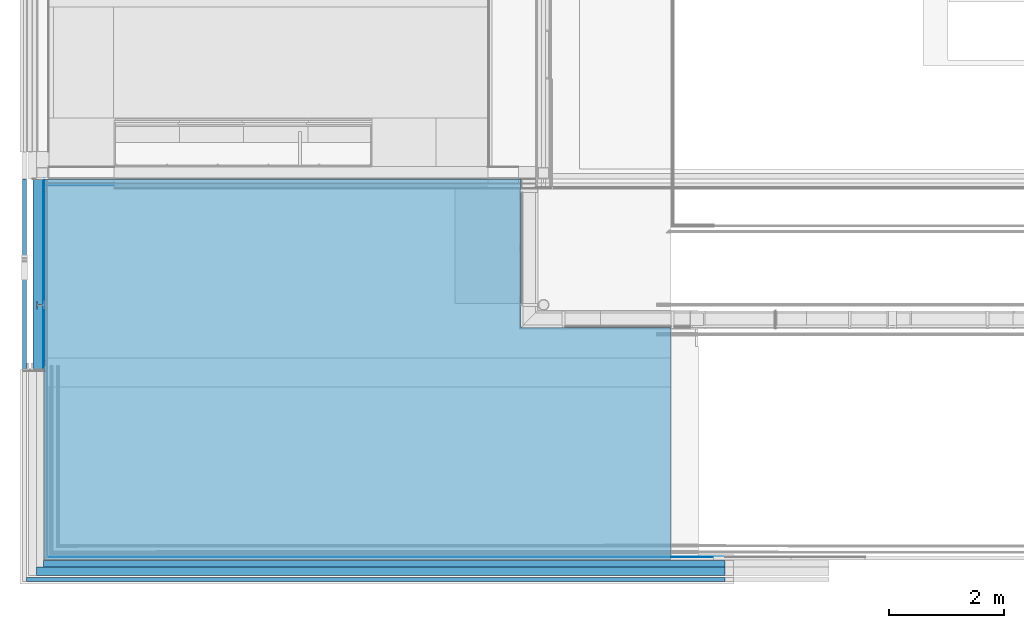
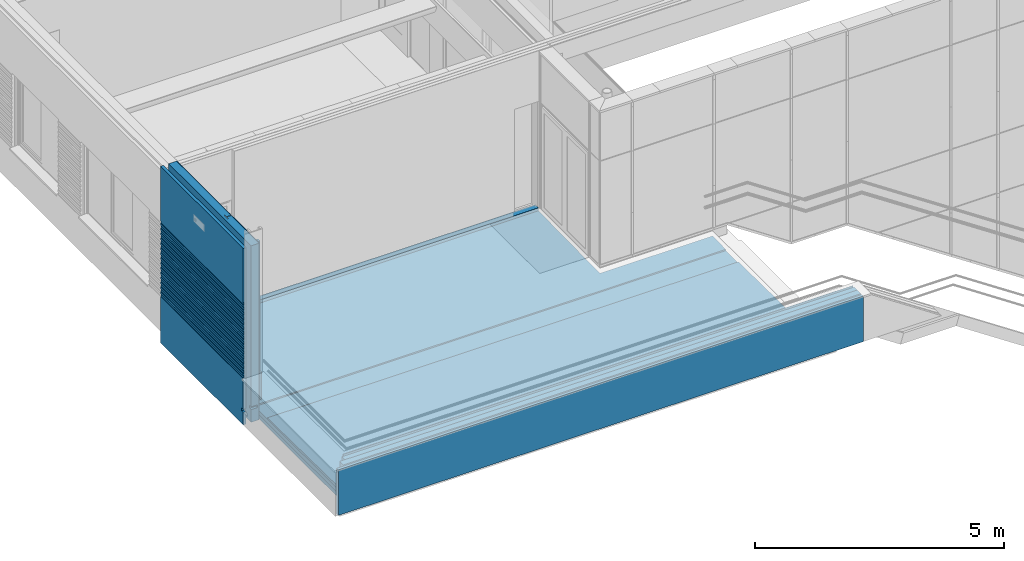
# One storey, part 53 of 137: 12 building element parts, 3 elements without a shape of their own.
"""IFC2X3 building model written with IfcOpenShell, lengths in millimetres."""

from ifc_helpers import new_model, entity, si_unit, converted_unit, derived_unit, money_unit, direction, frame, origin_with_axes, place, context, subcontext, project, spatial, faceted_brep, material, type_object, element, aggregate, save


model = new_model("IFC2X3")

# Units and contexts
model_context = context("Model", 3, precision=0.01, world=origin_with_axes(), true_north=direction((0.0, 1.0)))
body_context = subcontext(model_context, "Body", "Model", "MODEL_VIEW")
ifc_project = project(units=[si_unit("LENGTHUNIT", "METRE", prefix="MILLI"), si_unit("AREAUNIT", "SQUARE_METRE"), si_unit("VOLUMEUNIT", "CUBIC_METRE"), converted_unit("PLANEANGLEUNIT", "DEGREE", entity("IfcPlaneAngleMeasure", 0.0174532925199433), si_unit("PLANEANGLEUNIT", "RADIAN"), dimensions=[0, 0, 0, 0, 0, 0, 0]), money_unit("EUR"), converted_unit("TIMEUNIT", "Year", entity("IfcTimeMeasure", 31556926.0), si_unit("TIMEUNIT", "SECOND"), dimensions=[0, 0, 1, 0, 0, 0, 0]), si_unit("MASSUNIT", "GRAM", prefix="KILO"), si_unit("THERMODYNAMICTEMPERATUREUNIT", "DEGREE_CELSIUS"), si_unit("LUMINOUSINTENSITYUNIT", "LUMEN"), si_unit("ENERGYUNIT", "JOULE", prefix="MEGA"), derived_unit("THERMALCONDUCTANCEUNIT", [(si_unit("POWERUNIT", "WATT"), 1), (si_unit("LENGTHUNIT", "METRE"), -1), (si_unit("THERMODYNAMICTEMPERATUREUNIT", "KELVIN"), -1)]), derived_unit("SPECIFICHEATCAPACITYUNIT", [(si_unit("ENERGYUNIT", "JOULE"), 1), (si_unit("MASSUNIT", "GRAM", prefix="KILO"), -1), (si_unit("THERMODYNAMICTEMPERATUREUNIT", "KELVIN"), -1)]), derived_unit("MASSDENSITYUNIT", [(si_unit("MASSUNIT", "GRAM", prefix="KILO"), 1), (si_unit("VOLUMEUNIT", "CUBIC_METRE"), -1)])], contexts=[model_context])

# Site, building, storey
site_placement = place(None, origin_with_axes())
site = spatial("IfcSite", under=ifc_project, at=site_placement, Name="Site", CompositionType="ELEMENT")
building_placement = place(site_placement, origin_with_axes())
building = spatial("IfcBuilding", under=site, at=building_placement, Name="Naam gebouw", CompositionType="ELEMENT")
storey_placement = place(building_placement, frame((0.0, 0.0, 3960.0), z_axis=(0.0, 0.0, 1.0), x_axis=(1.0, 0.0, 0.0)))
storey = spatial("IfcBuildingStorey", under=building, at=storey_placement, Name="1e verdieping", CompositionType="ELEMENT", Elevation=3960.0)

# Wall, building element parts
wall_type_1 = type_object("IfcWallType", Name="21 Buitenwand spouwmuur overstek 434", PredefinedType="NOTDEFINED")
wall_1_placement = place(storey_placement, frame((0.0, 3453.999976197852, -390.0000000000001), z_axis=(0.0, 0.0, 1.0), x_axis=(0.0, 1.0, 0.0)))
wall_1 = element("IfcWall", 1, at=wall_1_placement, inside=storey, type_object=wall_type_1, Name="21_Wand-x")
ifc_material_1 = material(Name="Steen - Baksteen")
building_element_part_1_placement = place(wall_1_placement, origin_with_axes())
building_element_part_1 = element("IfcBuildingElementPart", 2, at=building_element_part_1_placement, material=ifc_material_1, Name="Steen - Baksteen", context=body_context, shape_type="Brep", body=[
    faceted_brep([(3326.000023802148, 250.0000119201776, 2940.000001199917), (3326.000023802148, 235.0000119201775, 2940.000001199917), (3326.000023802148, 235.0000119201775, 3000.0), (3326.000023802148, 249.9999999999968, 3000.0), (3326.000023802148, 249.9999999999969, 4338.000000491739), (3326.000023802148, 179.9999999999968, 4338.000000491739), (3326.000023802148, 179.9999999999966, 0.0), (3326.000023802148, 249.9999999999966, 0.0), (3326.000023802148, 249.9999999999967, 1140.000037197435), (3326.000023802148, 235.0000119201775, 1140.000037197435), (3326.000023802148, 235.0000119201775, 1210.000035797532), (3326.000023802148, 250.0000119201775, 1210.000035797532), (3326.000023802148, 250.0000119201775, 1260.000007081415), (3326.000023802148, 235.0000119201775, 1260.000007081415), (3326.000023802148, 235.0000119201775, 1330.000005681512), (3326.000023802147, 250.0000119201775, 1330.000005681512), (3326.000023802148, 250.0000119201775, 1380.000060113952), (3326.000023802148, 235.0000119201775, 1380.000060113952), (3326.000023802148, 235.0000119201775, 1450.000030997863), (3326.000023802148, 250.0000119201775, 1450.000030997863), (3326.000023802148, 250.0000119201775, 1500.000002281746), (3326.000023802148, 235.0000119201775, 1500.000002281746), (3326.000023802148, 235.0000119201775, 1570.000000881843), (3326.000023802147, 250.0000119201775, 1570.000000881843), (3326.000023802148, 250.0000119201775, 1620.000055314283), (3326.000023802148, 235.0000119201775, 1620.000055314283), (3326.000023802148, 235.0000119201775, 1690.000026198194), (3326.000023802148, 250.0000119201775, 1690.000026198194), (3326.000023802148, 250.0000119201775, 1739.999997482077), (3326.000023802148, 235.0000119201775, 1739.999997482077), (3326.000023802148, 235.0000119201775, 1809.999996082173), (3326.000023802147, 250.0000119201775, 1809.999996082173), (3326.000023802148, 250.0000119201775, 1860.000050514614), (3326.000023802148, 235.0000119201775, 1860.000050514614), (3326.000023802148, 235.0000119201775, 1930.000049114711), (3326.000023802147, 250.0000119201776, 1930.000049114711), (3326.000023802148, 250.0000119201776, 1979.999992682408), (3326.000023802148, 235.0000119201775, 1979.999992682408), (3326.000023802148, 235.0000119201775, 2049.999991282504), (3326.000023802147, 250.0000119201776, 2049.999991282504), (3326.000023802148, 250.0000119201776, 2100.000073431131), (3326.000023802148, 235.0000119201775, 2100.000073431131), (3326.000023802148, 235.0000119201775, 2170.000044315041), (3326.000023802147, 250.0000119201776, 2170.000044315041), (3326.000023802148, 250.0000119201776, 2220.000015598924), (3326.000023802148, 235.0000119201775, 2220.000015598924), (3326.000023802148, 235.0000119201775, 2289.999986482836), (3326.000023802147, 250.0000119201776, 2289.999986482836), (3326.000023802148, 250.0000119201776, 2340.000068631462), (3326.000023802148, 235.0000119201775, 2340.000068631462), (3326.000023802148, 235.0000119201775, 2410.000039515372), (3326.000023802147, 250.0000119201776, 2410.000039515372), (3326.000023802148, 250.0000119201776, 2460.000010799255), (3326.000023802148, 235.0000119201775, 2460.000010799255), (3326.000023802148, 235.0000119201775, 2529.999981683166), (3326.000023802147, 250.0000119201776, 2529.999981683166), (3326.000023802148, 250.0000119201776, 2580.000063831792), (3326.000023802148, 235.0000119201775, 2580.000063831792), (3326.000023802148, 235.0000119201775, 2650.000062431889), (3326.000023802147, 250.0000119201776, 2650.000062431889), (3326.000023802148, 250.0000119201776, 2700.000005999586), (3326.000023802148, 235.0000119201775, 2700.000005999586), (3326.000023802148, 235.0000119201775, 2770.000004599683), (3326.000023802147, 250.0000119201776, 2770.000004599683), (3326.000023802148, 250.0000119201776, 2820.000059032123), (3326.000023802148, 235.0000119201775, 2820.000059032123), (3326.000023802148, 235.0000119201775, 2890.00005763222), (3326.000023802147, 250.0000119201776, 2890.00005763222), (0.0, 250.000011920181, 2940.000001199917), (0.0, 235.000011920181, 2940.000001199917), (0.0, 235.000011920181, 3000.0), (0.0, 250.0000000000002, 3000.0), (0.0, 250.0000000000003, 4338.000000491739), (0.0, 180.0000000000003, 4338.000000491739), (0.0, 180.0, 383.0000000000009), (59.95952810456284, 180.0, 383.0000000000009), (59.95952810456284, 180.0, 313.0000000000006), (0.0, 180.0, 313.0000000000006), (0.0, 180.0, 0.0), (0.0, 250.0, 0.0), (0.0, 250.0000000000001, 1140.000037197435), (0.0, 250.0000000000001, 313.0000000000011), (59.95952810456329, 250.0, 313.0000000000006), (59.95952810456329, 250.0, 383.0000000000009), (0.0, 250.0000000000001, 383.0000000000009), (0.0, 235.0000119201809, 1140.000037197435), (0.0, 235.0000119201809, 1210.000035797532), (0.0, 250.0000119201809, 1210.000035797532), (0.0, 250.0000119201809, 1260.000007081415), (0.0, 235.0000119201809, 1260.000007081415), (0.0, 235.0000119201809, 1330.000005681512), (0.0, 250.0000119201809, 1330.000005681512), (0.0, 250.0000119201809, 1380.000060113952), (0.0, 235.0000119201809, 1380.000060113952), (0.0, 235.0000119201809, 1450.000030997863), (0.0, 250.0000119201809, 1450.000030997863), (0.0, 250.0000119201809, 1500.000002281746), (0.0, 235.0000119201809, 1500.000002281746), (0.0, 235.0000119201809, 1570.000000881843), (0.0, 250.0000119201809, 1570.000000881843), (0.0, 250.0000119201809, 1620.000055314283), (0.0, 235.0000119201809, 1620.000055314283), (0.0, 235.0000119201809, 1690.000026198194), (0.0, 250.0000119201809, 1690.000026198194), (0.0, 250.0000119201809, 1739.999997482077), (0.0, 235.0000119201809, 1739.999997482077), (0.0, 235.0000119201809, 1809.999996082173), (0.0, 250.0000119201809, 1809.999996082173), (0.0, 250.0000119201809, 1860.000050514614), (0.0, 235.0000119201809, 1860.000050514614), (0.0, 235.0000119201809, 1930.000049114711), (0.0, 250.000011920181, 1930.000049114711), (0.0, 250.000011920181, 1979.999992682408), (0.0, 235.0000119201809, 1979.999992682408), (0.0, 235.0000119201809, 2049.999991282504), (0.0, 250.000011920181, 2049.999991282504), (0.0, 250.000011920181, 2100.000073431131), (0.0, 235.0000119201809, 2100.000073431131), (0.0, 235.0000119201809, 2170.000044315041), (0.0, 250.000011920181, 2170.000044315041), (0.0, 250.000011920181, 2220.000015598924), (0.0, 235.0000119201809, 2220.000015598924), (0.0, 235.0000119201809, 2289.999986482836), (0.0, 250.000011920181, 2289.999986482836), (0.0, 250.000011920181, 2340.000068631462), (0.0, 235.0000119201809, 2340.000068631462), (0.0, 235.000011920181, 2410.000039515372), (0.0, 250.000011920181, 2410.000039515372), (0.0, 250.000011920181, 2460.000010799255), (0.0, 235.000011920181, 2460.000010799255), (0.0, 235.000011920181, 2529.999981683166), (0.0, 250.000011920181, 2529.999981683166), (0.0, 250.000011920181, 2580.000063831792), (0.0, 235.000011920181, 2580.000063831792), (0.0, 235.000011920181, 2650.000062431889), (0.0, 250.000011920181, 2650.000062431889), (0.0, 250.000011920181, 2700.000005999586), (0.0, 235.000011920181, 2700.000005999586), (0.0, 235.000011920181, 2770.000004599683), (0.0, 250.000011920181, 2770.000004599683), (0.0, 250.000011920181, 2820.000059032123), (0.0, 235.000011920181, 2820.000059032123), (0.0, 235.000011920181, 2890.00005763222), (0.0, 250.000011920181, 2890.00005763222)], [[[0, 1, 2, 3, 4, 5, 6, 7, 8, 9, 10, 11, 12, 13, 14, 15, 16, 17, 18, 19, 20, 21, 22, 23, 24, 25, 26, 27, 28, 29, 30, 31, 32, 33, 34, 35, 36, 37, 38, 39, 40, 41, 42, 43, 44, 45, 46, 47, 48, 49, 50, 51, 52, 53, 54, 55, 56, 57, 58, 59, 60, 61, 62, 63, 64, 65, 66, 67]], [[1, 0, 68, 69]], [[2, 1, 69, 70]], [[3, 2, 70, 71]], [[3, 71, 72, 4]], [[5, 4, 72, 73]], [[74, 75, 76, 77, 78, 6, 5, 73]], [[7, 6, 78, 79]], [[80, 8, 7, 79, 81, 82, 83, 84]], [[9, 8, 80, 85]], [[10, 9, 85, 86]], [[11, 10, 86, 87]], [[88, 12, 11, 87]], [[13, 12, 88, 89]], [[14, 13, 89, 90]], [[15, 14, 90, 91]], [[92, 16, 15, 91]], [[17, 16, 92, 93]], [[18, 17, 93, 94]], [[19, 18, 94, 95]], [[96, 20, 19, 95]], [[21, 20, 96, 97]], [[22, 21, 97, 98]], [[23, 22, 98, 99]], [[100, 24, 23, 99]], [[25, 24, 100, 101]], [[26, 25, 101, 102]], [[27, 26, 102, 103]], [[104, 28, 27, 103]], [[29, 28, 104, 105]], [[30, 29, 105, 106]], [[31, 30, 106, 107]], [[108, 32, 31, 107]], [[33, 32, 108, 109]], [[34, 33, 109, 110]], [[35, 34, 110, 111]], [[112, 36, 35, 111]], [[37, 36, 112, 113]], [[38, 37, 113, 114]], [[39, 38, 114, 115]], [[116, 40, 39, 115]], [[41, 40, 116, 117]], [[42, 41, 117, 118]], [[43, 42, 118, 119]], [[120, 44, 43, 119]], [[45, 44, 120, 121]], [[46, 45, 121, 122]], [[47, 46, 122, 123]], [[124, 48, 47, 123]], [[49, 48, 124, 125]], [[50, 49, 125, 126]], [[51, 50, 126, 127]], [[128, 52, 51, 127]], [[53, 52, 128, 129]], [[54, 53, 129, 130]], [[55, 54, 130, 131]], [[132, 56, 55, 131]], [[57, 56, 132, 133]], [[58, 57, 133, 134]], [[59, 58, 134, 135]], [[136, 60, 59, 135]], [[61, 60, 136, 137]], [[62, 61, 137, 138]], [[63, 62, 138, 139]], [[140, 64, 63, 139]], [[65, 64, 140, 141]], [[66, 65, 141, 142]], [[67, 66, 142, 143]], [[68, 0, 67, 143]], [[69, 68, 143, 142, 141, 140, 139, 138, 137, 136, 135, 134, 133, 132, 131, 130, 129, 128, 127, 126, 125, 124, 123, 122, 121, 120, 119, 118, 117, 116, 115, 114, 113, 112, 111, 110, 109, 108, 107, 106, 105, 104, 103, 102, 101, 100, 99, 98, 97, 96, 95, 94, 93, 92, 91, 90, 89, 88, 87, 86, 85, 80, 84, 74, 73, 72, 71, 70]], [[84, 83, 75, 74]], [[83, 82, 76, 75]], [[82, 81, 77, 76]], [[79, 78, 77, 81]]]),
])
ifc_material_2 = material(Name="Isolatie - Kunststof hard")
building_element_part_2_placement = place(wall_1_placement, origin_with_axes())
building_element_part_2 = element("IfcBuildingElementPart", 3, at=building_element_part_2_placement, material=ifc_material_2, Name="Isolatie - Kunststof hard", context=body_context, shape_type="Brep", body=[
    faceted_brep([(1196.000023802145, 0.0, 4338.000000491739), (1196.000023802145, -11.99999999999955, 4338.000000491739), (1129.500023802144, -11.99999999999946, 4338.000000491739), (1129.500023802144, -120.0000000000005, 4338.000000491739), (3326.000023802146, -120.0000000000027, 4338.000000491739), (3326.000023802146, 63.99999999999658, 4338.000000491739), (0.0, 63.99999999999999, 4338.000000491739), (0.0, -119.9999999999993, 4338.000000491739), (1122.500023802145, -120.0000000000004, 4338.000000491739), (1122.500023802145, -11.99999999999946, 4338.000000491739), (1056.000023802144, -11.99999999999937, 4338.000000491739), (1056.000023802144, 0.0, 4338.000000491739), (1196.000023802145, -11.99999999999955, 30.00000000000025), (1196.000023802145, 0.0, 30.00000000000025), (1129.500023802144, -11.99999999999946, 30.00000000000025), (1129.500023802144, -120.0000000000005, 30.00000000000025), (1122.500023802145, -120.0000000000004, 30.00000000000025), (0.0, -120.0000000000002, 0.0), (3326.000023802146, -120.0000000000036, 0.0), (3326.000034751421, -120.0000000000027, 120.0000000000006), (3322.000023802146, -120.0000000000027, 120.0000000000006), (3322.000023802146, -120.0000000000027, 4250.000000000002), (3326.000019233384, -120.0000000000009, 4250.000000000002), (3326.000019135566, 63.99999999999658, 4250.000000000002), (3322.000023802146, 63.99999999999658, 4250.000000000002), (3322.000023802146, 63.99999999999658, 120.0000000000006), (3326.000034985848, 63.99999999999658, 120.0000000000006), (3326.000023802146, 63.99999999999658, 0.0), (0.0, 63.99999999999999, 0.0), (0.0, 63.99999999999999, 313.0000000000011), (59.95952810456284, 63.99999999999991, 313.0000000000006), (59.95952810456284, 63.99999999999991, 383.0000000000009), (0.0, 63.99999999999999, 383.0000000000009), (0.0, -80.00001679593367, 383.0000000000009), (0.0, -80.00001679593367, 313.0000000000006), (1122.500023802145, -11.99999999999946, 30.00000000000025), (1056.000023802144, -11.99999999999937, 30.00000000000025), (1056.000023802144, 0.0, 30.00000000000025), (59.95952810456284, -80.00001679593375, 313.0000000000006), (59.95952810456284, -80.00001679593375, 383.0000000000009)], [[[0, 1, 2, 3, 4, 5, 6, 7, 8, 9, 10, 11]], [[12, 1, 0, 13]], [[14, 2, 1, 12]], [[14, 15, 3, 2]], [[15, 16, 8, 7, 17, 18, 19, 20, 21, 22, 4, 3]], [[23, 5, 4, 22]], [[5, 23, 24, 25, 26, 27, 28, 29, 30, 31, 32, 6]], [[7, 6, 32, 33, 34, 29, 28, 17]], [[35, 9, 8, 16]], [[36, 10, 9, 35]], [[37, 11, 10, 36]], [[13, 0, 11, 37]], [[35, 16, 15, 14, 12, 13, 37, 36]], [[17, 28, 27, 18]], [[19, 18, 27, 26]], [[19, 26, 25, 20]], [[25, 24, 21, 20]], [[22, 21, 24, 23]], [[29, 34, 38, 30]], [[31, 30, 38, 39]], [[33, 32, 31, 39]], [[34, 33, 39, 38]]]),
])
ifc_material_3 = material(Name="Cementgebonden plaatmateriaal")
building_element_part_3_placement = place(wall_1_placement, origin_with_axes())
building_element_part_3 = element("IfcBuildingElementPart", 4, at=building_element_part_3_placement, material=ifc_material_3, Name="Cementgebonden plaatmateriaal", context=body_context, shape_type="Brep", body=[
    faceted_brep([(3242.000023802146, -121.999996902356, 120.0000000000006), (3249.000015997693, -121.999996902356, 120.0000000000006), (3249.000015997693, -132.0000000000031, 120.0000000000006), (3326.000034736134, -132.0000000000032, 120.0000000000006), (3326.000034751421, -120.0000000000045, 120.0000000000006), (3322.000023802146, -120.0000000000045, 120.0000000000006), (3242.000023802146, -120.0000000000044, 120.0000000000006), (3242.000023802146, -121.999996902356, 480.0), (1129.500023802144, -121.9999969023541, 480.0), (1129.500023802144, -121.9999969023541, 30.00000000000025), (1122.500023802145, -121.9999969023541, 30.00000000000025), (1122.500023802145, -121.9999969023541, 480.0), (0.0, -121.9999969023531, 480.0), (0.0, -121.9999969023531, 0.0), (3249.000015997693, -121.999996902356, 0.0), (3249.000015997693, -132.0000000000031, 0.0), (3326.000023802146, -132.0000000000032, 0.0), (3326.000023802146, -120.0000000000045, 0.0), (0.0, -119.9999999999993, 4338.000000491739), (1122.500023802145, -120.0000000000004, 4338.000000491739), (1122.500023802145, -120.0000000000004, 30.00000000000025), (1129.500023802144, -120.0000000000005, 30.00000000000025), (1129.500023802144, -120.0000000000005, 4338.000000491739), (3326.000023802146, -120.0000000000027, 4338.000000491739), (3326.000019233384, -120.0000000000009, 4250.000000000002), (3322.000023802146, -120.0000000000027, 4250.000000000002), (3242.000023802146, -120.0000000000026, 4250.000000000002), (0.0, -120.0000000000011, 0.0), (3242.000023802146, -132.0000000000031, 4250.000000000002), (3242.000023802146, -132.0000000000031, 480.0), (1196.000023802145, -132.000000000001, 480.0), (1196.000023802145, -127.9999999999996, 480.0), (1129.500023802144, -127.9999999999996, 480.0), (1129.500023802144, -127.9999999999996, 4338.000000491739), (1122.500023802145, -127.9999999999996, 4338.000000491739), (1122.500023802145, -127.9999999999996, 480.0), (1056.000023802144, -127.9999999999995, 480.0), (1056.000023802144, -132.0000000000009, 480.0), (0.0, -131.9999999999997, 480.0), (0.0, -131.9999999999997, 4338.000000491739), (1056.000023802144, -132.0000000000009, 4338.000000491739), (1056.000023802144, -127.9999999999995, 4338.000000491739), (3326.000023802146, -132.0000000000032, 4338.000000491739), (1196.000023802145, -127.9999999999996, 4338.000000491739), (1196.000023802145, -132.000000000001, 4338.000000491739), (3326.000019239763, -132.0000000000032, 4250.000000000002)], [[[0, 1, 2, 3, 4, 5, 6]], [[1, 0, 7, 8, 9, 10, 11, 12, 13, 14]], [[15, 2, 1, 14]], [[2, 15, 16, 3]], [[17, 4, 3, 16]], [[18, 19, 20, 21, 22, 23, 24, 25, 26, 6, 5, 4, 17, 27]], [[7, 0, 6, 26, 28, 29]], [[7, 29, 30, 31, 32, 8]], [[8, 32, 33, 22, 21, 9]], [[10, 9, 21, 20]], [[11, 10, 20, 19, 34, 35]], [[36, 37, 38, 12, 11, 35]], [[12, 38, 39, 18, 27, 13]], [[14, 13, 27, 17, 16, 15]], [[39, 40, 41, 34, 19, 18]], [[42, 23, 22, 33, 43, 44]], [[42, 45, 24, 23]], [[45, 28, 26, 25, 24]], [[30, 29, 28, 45, 42, 44]], [[31, 30, 44, 43]], [[32, 31, 43, 33]], [[36, 35, 34, 41]], [[37, 36, 41, 40]], [[38, 37, 40, 39]]]),
])
ifc_material_4 = material(Name="Isolatie - STO EPS")
building_element_part_4_placement = place(wall_1_placement, origin_with_axes())
building_element_part_4 = element("IfcBuildingElementPart", 5, at=building_element_part_4_placement, material=ifc_material_4, Name="Isolatie - STO EPS", context=body_context, shape_type="Brep", body=[
    faceted_brep([(0.0, -176.0000068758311, 480.0), (3238.000023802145, -176.0000000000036, 480.0), (3238.000023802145, -176.0000000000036, 4245.000048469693), (145.9978424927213, -176.0000165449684, 4245.000048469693), (145.9978424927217, -176.0000160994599, 4338.000000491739), (58.00000295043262, -176.0000165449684, 4338.000000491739), (58.00000295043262, -176.0000165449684, 1155.000000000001), (0.0, -176.0000165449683, 1155.000000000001), (3238.000023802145, -136.0000000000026, 480.0), (0.0, -136.000007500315, 480.0), (1056.000023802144, -136.0000000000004, 480.0), (1056.000023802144, -140.0, 480.0), (1196.000023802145, -140.0000000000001, 480.0), (1196.000023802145, -136.0000000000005, 480.0), (3238.000023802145, -136.0000000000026, 4245.000048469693), (145.9978388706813, -136.0000180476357, 4245.000048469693), (1196.000023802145, -136.0000000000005, 4245.000048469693), (1196.000023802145, -140.0000000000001, 4245.000048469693), (1056.000023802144, -140.0, 4245.000048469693), (1056.000023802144, -136.0000000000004, 4245.000048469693), (145.9978388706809, -136.0000164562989, 4338.000000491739), (58.00000295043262, -136.0000180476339, 4338.000000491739), (58.00000295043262, -136.0000180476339, 1155.000000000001), (0.0, -136.0000180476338, 1155.000000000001)], [[[0, 1, 2, 3, 4, 5, 6, 7]], [[8, 1, 0, 9, 10, 11, 12, 13]], [[1, 8, 14, 2]], [[15, 3, 2, 14, 16, 17, 18, 19]], [[4, 3, 15, 20]], [[5, 4, 20, 21]], [[6, 5, 21, 22]], [[7, 6, 22, 23]], [[9, 0, 7, 23]], [[10, 9, 23, 22, 21, 20, 15, 19]], [[11, 10, 19, 18]], [[12, 11, 18, 17]], [[13, 12, 17, 16]], [[8, 13, 16, 14]]]),
    faceted_brep([(3249.000015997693, -136.0000000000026, 120.0000000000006), (3249.000015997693, -176.0000000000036, 120.0000000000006), (3326.000034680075, -176.0000000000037, 120.0000000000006), (3326.000034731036, -136.0000000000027, 120.0000000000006), (3249.000015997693, -176.0000000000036, 0.0), (3249.000015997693, -136.0000000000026, 0.0), (3326.000023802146, -176.0000000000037, 0.0), (3326.000023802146, -136.0000000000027, 0.0)], [[[0, 1, 2, 3]], [[4, 1, 0, 5]], [[1, 4, 6, 2]], [[2, 6, 7, 3]], [[5, 0, 3, 7]], [[4, 5, 7, 6]]]),
])
ifc_material_5 = material(Name="STO lijmlaag")
building_element_part_5_placement = place(wall_1_placement, origin_with_axes())
building_element_part_5 = element("IfcBuildingElementPart", 6, at=building_element_part_5_placement, material=ifc_material_5, Name="STO lijmlaag", context=body_context, shape_type="Brep", body=[
    faceted_brep([(0.0, -136.0000081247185, 480.0), (1056.000023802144, -136.000000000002, 480.0), (1056.000023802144, -136.0000000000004, 4245.000048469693), (145.9978388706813, -136.0000195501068, 4245.000048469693), (145.9978388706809, -136.000017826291, 4338.000000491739), (58.00000272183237, -136.0000195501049, 4338.000000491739), (58.00000272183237, -136.0000195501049, 1155.000000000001), (0.0, -136.0000195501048, 1155.000000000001), (1056.000023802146, -132.0000211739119, 480.0), (0.0, -132.0000086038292, 480.0), (1056.000023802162, -132.0001983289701, 4245.000048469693), (145.9978385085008, -132.0002790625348, 4245.000048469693), (145.9978385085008, -132.0002790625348, 4338.000000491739), (58.00000272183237, -132.0000207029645, 4338.000000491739), (58.00000272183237, -132.0000207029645, 1155.000000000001), (0.0, -132.0000207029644, 1155.000000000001)], [[[0, 1, 2, 3, 4, 5, 6, 7]], [[8, 1, 0, 9]], [[1, 8, 10, 2]], [[11, 3, 2, 10]], [[4, 3, 11, 12]], [[5, 4, 12, 13]], [[6, 5, 13, 14]], [[7, 6, 14, 15]], [[9, 0, 7, 15]], [[8, 9, 15, 14, 13, 12, 11, 10]]]),
    faceted_brep([(1196.000023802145, -136.0000000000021, 480.0), (3242.000023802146, -136.0000000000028, 480.0), (3242.000023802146, -136.0000000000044, 4245.000048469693), (1196.000023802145, -136.0000000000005, 4245.000048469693), (3242.000023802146, -132.0000003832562, 480.0), (1196.000023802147, -132.0000198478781, 480.0), (3242.000023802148, -132.0000043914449, 4245.000048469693), (1196.000023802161, -132.0001859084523, 4245.000048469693)], [[[0, 1, 2, 3]], [[4, 1, 0, 5]], [[1, 4, 6, 2]], [[7, 3, 2, 6]], [[5, 0, 3, 7]], [[4, 5, 7, 6]]]),
    faceted_brep([(3249.000015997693, -132.0000000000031, 120.0000000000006), (3249.000015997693, -136.0000000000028, 120.0000000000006), (3326.000034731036, -136.0000000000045, 120.0000000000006), (3326.000034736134, -132.0000000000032, 120.0000000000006), (3249.000015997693, -136.0000000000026, 0.0), (3249.000015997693, -132.0000000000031, 0.0), (3326.000023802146, -136.0000000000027, 0.0), (3326.000023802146, -132.0000000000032, 0.0)], [[[0, 1, 2, 3]], [[4, 1, 0, 5]], [[1, 4, 6, 2]], [[2, 6, 7, 3]], [[5, 0, 3, 7]], [[4, 5, 7, 6]]]),
])
aggregate(wall_1, [building_element_part_1, building_element_part_2, building_element_part_3, building_element_part_4, building_element_part_5])

# Slab, building element parts
slab_type = type_object("IfcSlabType", Name="27 Dakterras isolatie 350", PredefinedType="NOTDEFINED")
slab_placement = place(storey_placement, frame((132.0, 6779.999999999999, -389.9999999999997), z_axis=(0.0, 0.0, 1.0), x_axis=(1.0, 0.0, 0.0)))
slab = element("IfcSlab", 7, at=slab_placement, inside=storey, type_object=slab_type, Name="_Vloer-x", PredefinedType="NOTDEFINED")
ifc_material_6 = material(Name="Isolatie - Kunststof zacht")
building_element_part_6_placement = place(slab_placement, origin_with_axes())
building_element_part_6 = element("IfcBuildingElementPart", 8, at=building_element_part_6_placement, material=ifc_material_6, Name="Isolatie - Kunststof zacht", context=body_context, shape_type="Brep", body=[
    faceted_brep([(-3.895163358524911e-07, -3634.040495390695, 230.0000004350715), (10942.99985708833, -3634.040495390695, 230.0000004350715), (10942.99999901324, -3634.040495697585, 199.9999999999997), (0.0, -3634.040495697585, 199.9999999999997), (10942.99985708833, -6648.000000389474, 275.2093930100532), (-3.895163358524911e-07, -6648.000000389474, 275.2093930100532), (10942.99985733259, -6648.0, 200.0000000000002), (0.0, -6648.0, 200.0000000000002)], [[[0, 1, 2, 3]], [[4, 1, 0, 5]], [[1, 4, 6, 2]], [[7, 3, 2, 6]], [[5, 0, 3, 7]], [[4, 5, 7, 6]]]),
    faceted_brep([(8324.150000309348, -2597.000000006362, 237.9650004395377), (10942.99985708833, -2597.000000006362, 237.9650004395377), (10942.99985733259, -2597.000000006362, 200.0000000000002), (8324.150000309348, -2597.000000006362, 200.0000000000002), (10942.99985708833, -3128.000000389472, 230.0000004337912), (8324.150000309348, -127.9999999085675, 275.0000004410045), (-3.895163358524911e-07, -127.9999999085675, 275.0000004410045), (-3.895163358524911e-07, -3128.000000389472, 230.0000004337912), (10942.99999901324, -3128.000022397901, 200.0000000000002), (0.0, -3128.000022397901, 200.0000000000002), (0.0, 0.0, 200.0000000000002), (8324.150000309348, 0.0, 200.0000000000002), (8324.150000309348, 0.0, 350.0000000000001), (8324.150000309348, -127.9999999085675, 350.0000000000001), (-3.895163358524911e-07, -127.9999999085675, 350.0000000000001), (0.0, 0.0, 350.0000000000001)], [[[0, 1, 2, 3]], [[4, 1, 0, 5, 6, 7]], [[1, 4, 8, 2]], [[2, 8, 9, 10, 11, 3]], [[5, 0, 3, 11, 12, 13]], [[5, 13, 14, 6]], [[6, 14, 15, 10, 9, 7]], [[4, 7, 9, 8]], [[12, 11, 10, 15]], [[14, 13, 12, 15]]]),
])
ifc_material_7 = material(Name="Isolatie - Steenwol hard")
building_element_part_7_placement = place(slab_placement, origin_with_axes())
building_element_part_7 = element("IfcBuildingElementPart", 9, at=building_element_part_7_placement, material=ifc_material_7, Name="Isolatie - Steenwol hard", context=body_context, shape_type="Brep", body=[
    faceted_brep([(0.0, 0.0, 100.0000000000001), (0.0, -6648.0, 100.0000000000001), (0.0, -6648.0, 200.0000000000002), (0.0, 0.0, 200.0000000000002), (8324.150000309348, 0.0, 100.0000000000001), (8324.150000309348, -2597.000000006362, 100.0000000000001), (10942.99985733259, -2597.000000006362, 100.0000000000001), (10942.99985733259, -6648.0, 100.0000000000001), (10942.99985733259, -6648.0, 200.0000000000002), (8324.150000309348, 0.0, 200.0000000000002), (10942.99985733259, -2597.000000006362, 200.0000000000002), (8324.150000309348, -2597.000000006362, 200.0000000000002)], [[[0, 1, 2, 3]], [[1, 0, 4, 5, 6, 7]], [[1, 7, 8, 2]], [[9, 3, 2, 8, 10, 11]], [[4, 0, 3, 9]], [[5, 4, 9, 11]], [[6, 5, 11, 10]], [[7, 6, 10, 8]]]),
])
building_element_part_8_placement = place(slab_placement, origin_with_axes())
building_element_part_8 = element("IfcBuildingElementPart", 10, at=building_element_part_8_placement, material=ifc_material_7, Name="Isolatie - Steenwol hard", context=body_context, shape_type="Brep", body=[
    faceted_brep([(0.0, 0.0, 0.0), (0.0, -6648.0, 0.0), (0.0, -6648.0, 100.0000000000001), (0.0, 0.0, 100.0000000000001), (8324.150000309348, 0.0, 0.0), (8324.150000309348, -2597.000000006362, 0.0), (10942.99985733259, -2597.000000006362, 0.0), (10942.99985733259, -6648.0, 0.0), (10942.99985733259, -6648.0, 100.0000000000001), (10942.99985733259, -2597.000000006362, 100.0000000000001), (8324.150000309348, -2597.000000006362, 100.0000000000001), (8324.150000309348, 0.0, 100.0000000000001)], [[[0, 1, 2, 3]], [[0, 4, 5, 6, 7, 1]], [[1, 7, 8, 2]], [[3, 2, 8, 9, 10, 11]], [[4, 0, 3, 11]], [[5, 4, 11, 10]], [[6, 5, 10, 9]], [[7, 6, 9, 8]]]),
])
aggregate(slab, [building_element_part_6, building_element_part_7, building_element_part_8])

# Wall, building element parts
wall_type_2 = type_object("IfcWallType", Name="21 Borstwering metselwerk 434", PredefinedType="NOTDEFINED")
wall_2_placement = place(storey_placement, frame((1.679593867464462e-05, 0.0, -390.0000000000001), z_axis=(0.0, 0.0, 1.0), x_axis=(1.0, 0.0, 0.0)))
wall_2 = element("IfcWall", 11, at=wall_2_placement, inside=storey, type_object=wall_type_2, Name="21_Wand-x")
building_element_part_9_placement = place(wall_2_placement, origin_with_axes())
building_element_part_9 = element("IfcBuildingElementPart", 12, at=building_element_part_9_placement, material=ifc_material_2, Name="Isolatie - Kunststof hard", context=body_context, shape_type="Brep", body=[
    faceted_brep([(120.0000000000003, 119.9999999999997, 0.0), (120.0000000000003, 119.9999999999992, 1115.000000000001), (12019.4160960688, 120.0000000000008, 1115.000000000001), (12019.4160960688, 120.0000000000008, 0.0), (120.0000000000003, 0.0, 1115.000000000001), (120.0000000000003, 0.0, 0.0), (12019.4160960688, 0.0, 1115.000000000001), (12019.4160960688, 0.0, 0.0)], [[[0, 1, 2, 3]], [[4, 1, 0, 5]], [[1, 4, 6, 2]], [[6, 7, 3, 2]], [[5, 0, 3, 7]], [[4, 5, 7, 6]]]),
])
ifc_material_8 = material(Name="Isolatie - Steenwol zacht")
building_element_part_10_placement = place(wall_2_placement, origin_with_axes())
building_element_part_10 = element("IfcBuildingElementPart", 13, at=building_element_part_10_placement, material=ifc_material_8, Name="Isolatie - Steenwol zacht", context=body_context, shape_type="Brep", body=[
    faceted_brep([(0.0, 0.0, 0.0), (0.0, 0.0, 1115.000000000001), (12019.4160960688, 0.0, 1115.000000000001), (12019.4160960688, 0.0, 0.0), (0.0, -145.0, 1115.000000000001), (0.0, -144.9999999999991, 0.0), (12019.4160960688, -144.9999999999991, 1115.000000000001), (12019.4160960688, -144.9999999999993, 0.0)], [[[0, 1, 2, 3]], [[4, 1, 0, 5]], [[1, 4, 6, 2]], [[6, 7, 3, 2]], [[5, 0, 3, 7]], [[4, 5, 7, 6]]]),
])
ifc_material_9 = material(Name="Eternit wit")
building_element_part_11_placement = place(wall_2_placement, origin_with_axes())
building_element_part_11 = element("IfcBuildingElementPart", 14, at=building_element_part_11_placement, material=ifc_material_9, Name="Eternit wit", context=body_context, shape_type="Brep", body=[
    faceted_brep([(12019.4160960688, 176.0000000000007, 347.0558912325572), (12019.4160960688, 184.0000000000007, 347.0558912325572), (12019.4160960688, 184.0000000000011, 1115.000000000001), (12019.4160960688, 176.0000000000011, 1115.000000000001), (11819.99990798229, 184.0000000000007, 480.0000000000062), (11819.99990798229, 176.0000000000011, 480.0000000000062), (183.9999801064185, 184.0000000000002, 480.0), (184.0000000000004, 184.0000000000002, 1115.000000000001), (184.0000000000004, 176.0000000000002, 1115.000000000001), (184.0000000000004, 176.0000000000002, 480.0)], [[[0, 1, 2, 3]], [[4, 1, 0, 5]], [[1, 4, 6, 7, 2]], [[8, 3, 2, 7]], [[5, 0, 3, 8, 9]], [[4, 5, 9, 6]], [[8, 7, 6, 9]]]),
])
building_element_part_12_placement = place(wall_2_placement, origin_with_axes())
building_element_part_12 = element("IfcBuildingElementPart", 15, at=building_element_part_12_placement, material=ifc_material_1, Name="Steen - Baksteen", context=body_context, shape_type="Brep", body=[
    faceted_brep([(-179.9999999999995, -179.9999999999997, 0.0), (-179.9999999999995, -179.9999999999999, 1115.000000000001), (12019.4160960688, -179.9999999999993, 1115.000000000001), (12019.4160960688, -179.9999999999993, 0.0), (-179.9999999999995, -250.0, 1115.000000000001), (-179.9999999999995, -250.0, 0.0), (12019.4160960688, -249.9999999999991, 1115.000000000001), (12019.4160960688, -249.9999999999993, 0.0)], [[[0, 1, 2, 3]], [[4, 1, 0, 5]], [[1, 4, 6, 2]], [[6, 7, 3, 2]], [[5, 0, 3, 7]], [[4, 5, 7, 6]]]),
])
aggregate(wall_2, [building_element_part_9, building_element_part_10, building_element_part_11, building_element_part_12])

save(model, "model.ifc")
